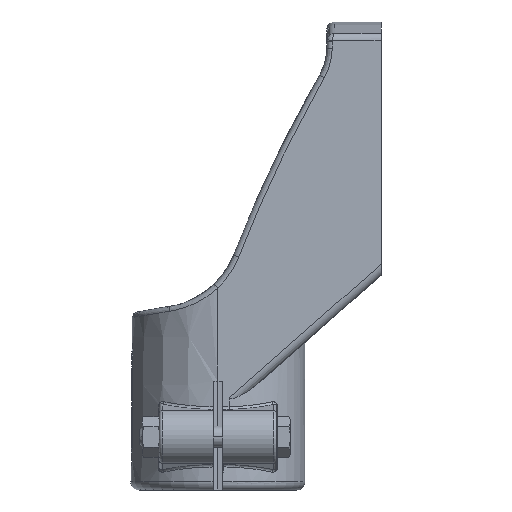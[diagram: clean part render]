
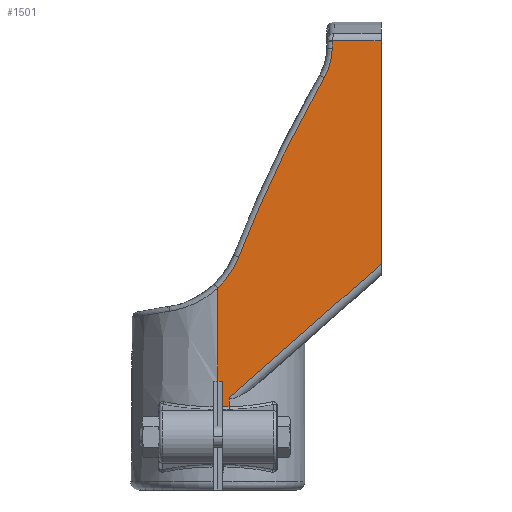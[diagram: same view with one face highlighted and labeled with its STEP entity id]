
A CAD part, left-side view. The second image highlights one B-rep face of the part: STEP entity #1501.
In plain terms, the highlighted planar face has unit normal (-1, 0, 0.009).
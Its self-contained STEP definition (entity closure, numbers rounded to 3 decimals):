
#338=CARTESIAN_POINT('Vertex',(-30.583,18.,162.386)) ;
#341=CARTESIAN_POINT('Line Origine',(-31.25,18.,85.998)) ;
#345=CARTESIAN_POINT('Vertex',(-30.563,18.,164.717)) ;
#1089=CARTESIAN_POINT('Control Point',(-30.56,17.955,165.029)) ;
#1090=CARTESIAN_POINT('Control Point',(-30.56,17.973,164.968)) ;
#1091=CARTESIAN_POINT('Control Point',(-30.561,17.986,164.906)) ;
#1092=CARTESIAN_POINT('Control Point',(-30.561,17.995,164.843)) ;
#1093=CARTESIAN_POINT('Control Point',(-30.562,18.,164.78)) ;
#1094=CARTESIAN_POINT('Control Point',(-30.563,18.,164.717)) ;
#1095=CARTESIAN_POINT('Vertex',(-30.56,17.955,165.029)) ;
#1368=CARTESIAN_POINT('Vertex',(-30.678,20.9,151.468)) ;
#1372=CARTESIAN_POINT('Control Point',(-30.678,20.9,151.468)) ;
#1373=CARTESIAN_POINT('Control Point',(-30.676,20.741,151.746)) ;
#1374=CARTESIAN_POINT('Control Point',(-30.673,20.588,152.027)) ;
#1375=CARTESIAN_POINT('Control Point',(-30.671,20.439,152.31)) ;
#1376=CARTESIAN_POINT('Control Point',(-30.653,19.434,154.315)) ;
#1377=CARTESIAN_POINT('Control Point',(-30.635,18.687,156.442)) ;
#1378=CARTESIAN_POINT('Control Point',(-30.618,18.249,158.329)) ;
#1379=CARTESIAN_POINT('Control Point',(-30.601,18.015,160.292)) ;
#1380=CARTESIAN_POINT('Control Point',(-30.584,18.,162.257)) ;
#1381=CARTESIAN_POINT('Control Point',(-30.584,18.,162.3)) ;
#1382=CARTESIAN_POINT('Control Point',(-30.583,18.,162.343)) ;
#1383=CARTESIAN_POINT('Control Point',(-30.583,18.,162.386)) ;
#1392=CARTESIAN_POINT('Axis2P3D Location',(-32.,0.,0.)) ;
#1398=CARTESIAN_POINT('Control Point',(-31.733,55.877,30.56)) ;
#1399=CARTESIAN_POINT('Control Point',(-31.733,55.877,30.556)) ;
#1400=CARTESIAN_POINT('Control Point',(-31.733,55.878,30.553)) ;
#1401=CARTESIAN_POINT('Control Point',(-31.733,55.878,30.549)) ;
#1402=CARTESIAN_POINT('Vertex',(-31.733,55.878,30.549)) ;
#1404=CARTESIAN_POINT('Vertex',(-31.733,55.877,30.56)) ;
#1408=CARTESIAN_POINT('Control Point',(-31.733,55.877,30.56)) ;
#1409=CARTESIAN_POINT('Control Point',(-31.73,55.85,30.968)) ;
#1410=CARTESIAN_POINT('Control Point',(-31.726,55.823,31.377)) ;
#1411=CARTESIAN_POINT('Control Point',(-31.723,55.796,31.786)) ;
#1412=CARTESIAN_POINT('Vertex',(-31.723,55.796,31.786)) ;
#1416=CARTESIAN_POINT('Control Point',(-31.723,55.796,31.786)) ;
#1417=CARTESIAN_POINT('Control Point',(-31.716,55.747,32.518)) ;
#1418=CARTESIAN_POINT('Control Point',(-31.71,55.7,33.25)) ;
#1419=CARTESIAN_POINT('Control Point',(-31.703,55.654,33.982)) ;
#1420=CARTESIAN_POINT('Vertex',(-31.703,55.654,33.982)) ;
#1424=CARTESIAN_POINT('Control Point',(-31.703,55.654,33.982)) ;
#1425=CARTESIAN_POINT('Control Point',(-31.275,0.,83.025)) ;
#1426=CARTESIAN_POINT('Vertex',(-31.275,0.,83.025)) ;
#1429=CARTESIAN_POINT('Line Origine',(-31.249,0.,86.)) ;
#1433=CARTESIAN_POINT('Vertex',(-30.56,0.,165.029)) ;
#1436=CARTESIAN_POINT('Line Origine',(-30.56,20.8,165.029)) ;
#1442=CARTESIAN_POINT('Control Point',(-30.678,20.9,151.468)) ;
#1443=CARTESIAN_POINT('Control Point',(-30.863,32.995,130.309)) ;
#1444=CARTESIAN_POINT('Control Point',(-31.055,43.534,108.261)) ;
#1445=CARTESIAN_POINT('Control Point',(-31.253,52.404,85.561)) ;
#1446=CARTESIAN_POINT('Vertex',(-31.253,52.404,85.561)) ;
#1450=CARTESIAN_POINT('Control Point',(-31.353,60.,74.169)) ;
#1451=CARTESIAN_POINT('Control Point',(-31.332,57.516,76.563)) ;
#1452=CARTESIAN_POINT('Control Point',(-31.308,55.377,79.315)) ;
#1453=CARTESIAN_POINT('Control Point',(-31.281,53.659,82.348)) ;
#1454=CARTESIAN_POINT('Control Point',(-31.253,52.404,85.561)) ;
#1455=CARTESIAN_POINT('Vertex',(-31.353,60.,74.169)) ;
#1458=CARTESIAN_POINT('Line Origine',(-31.249,60.,86.)) ;
#1462=CARTESIAN_POINT('Vertex',(-31.651,60.,40.)) ;
#1465=CARTESIAN_POINT('Line Origine',(-31.651,20.8,40.)) ;
#1469=CARTESIAN_POINT('Vertex',(-31.651,58.25,40.)) ;
#1472=CARTESIAN_POINT('Line Origine',(-31.249,58.25,86.)) ;
#1476=CARTESIAN_POINT('Vertex',(-31.733,58.25,30.549)) ;
#1479=CARTESIAN_POINT('Line Origine',(-31.733,20.8,30.549)) ;
#342=DIRECTION('Vector Direction',(0.009,0.,1.)) ;
#1393=DIRECTION('Axis2P3D Direction',(-1.,0.,0.009)) ;
#1394=DIRECTION('Axis2P3D XDirection',(0.,1.,0.)) ;
#1430=DIRECTION('Vector Direction',(-0.009,0.,-1.)) ;
#1437=DIRECTION('Vector Direction',(0.,1.,0.)) ;
#1459=DIRECTION('Vector Direction',(-0.009,0.,-1.)) ;
#1466=DIRECTION('Vector Direction',(0.,1.,0.)) ;
#1473=DIRECTION('Vector Direction',(-0.009,0.,-1.)) ;
#1480=DIRECTION('Vector Direction',(0.,1.,0.)) ;
#1395=AXIS2_PLACEMENT_3D('Plane Axis2P3D',#1392,#1393,#1394) ;
#1485=ORIENTED_EDGE('',*,*,#1406,.T.) ;
#1486=ORIENTED_EDGE('',*,*,#1414,.T.) ;
#1487=ORIENTED_EDGE('',*,*,#1422,.F.) ;
#1488=ORIENTED_EDGE('',*,*,#1428,.F.) ;
#1489=ORIENTED_EDGE('',*,*,#1435,.F.) ;
#1490=ORIENTED_EDGE('',*,*,#1440,.F.) ;
#1491=ORIENTED_EDGE('',*,*,#1097,.F.) ;
#1492=ORIENTED_EDGE('',*,*,#347,.F.) ;
#1493=ORIENTED_EDGE('',*,*,#1384,.F.) ;
#1494=ORIENTED_EDGE('',*,*,#1448,.F.) ;
#1495=ORIENTED_EDGE('',*,*,#1457,.F.) ;
#1496=ORIENTED_EDGE('',*,*,#1464,.F.) ;
#1497=ORIENTED_EDGE('',*,*,#1471,.T.) ;
#1498=ORIENTED_EDGE('',*,*,#1478,.F.) ;
#1499=ORIENTED_EDGE('',*,*,#1483,.F.) ;
#343=VECTOR('Line Direction',#342,1.) ;
#1431=VECTOR('Line Direction',#1430,1.) ;
#1438=VECTOR('Line Direction',#1437,1.) ;
#1460=VECTOR('Line Direction',#1459,1.) ;
#1467=VECTOR('Line Direction',#1466,1.) ;
#1474=VECTOR('Line Direction',#1473,1.) ;
#1481=VECTOR('Line Direction',#1480,1.) ;
#1501=ADVANCED_FACE('PartBody',(#1500),#1396,.T.) ;
#1088=B_SPLINE_CURVE_WITH_KNOTS('',5,(#1089,#1090,#1091,#1092,#1093,#1094),.UNSPECIFIED.,.F.,.U.,(6,6),(11.527,12.49),.UNSPECIFIED.) ;
#1371=B_SPLINE_CURVE_WITH_KNOTS('',5,(#1372,#1373,#1374,#1375,#1376,#1377,#1378,#1379,#1380,#1381,#1382,#1383),.UNSPECIFIED.,.F.,.U.,(6,3,3,6),(85.689,87.852,100.838,101.13),.UNSPECIFIED.) ;
#1397=B_SPLINE_CURVE_WITH_KNOTS('',3,(#1398,#1399,#1400,#1401),.UNSPECIFIED.,.F.,.U.,(4,4),(0.,0.014),.UNSPECIFIED.) ;
#1407=B_SPLINE_CURVE_WITH_KNOTS('',3,(#1408,#1409,#1410,#1411),.UNSPECIFIED.,.F.,.U.,(4,4),(44.404,46.143),.UNSPECIFIED.) ;
#1415=B_SPLINE_CURVE_WITH_KNOTS('',3,(#1416,#1417,#1418,#1419),.UNSPECIFIED.,.F.,.U.,(4,4),(0.,3.111),.UNSPECIFIED.) ;
#1423=B_SPLINE_CURVE_WITH_KNOTS('',1,(#1424,#1425),.UNSPECIFIED.,.F.,.U.,(2,2),(-34.193,39.987),.UNSPECIFIED.) ;
#1441=B_SPLINE_CURVE_WITH_KNOTS('',3,(#1442,#1443,#1444,#1445),.UNSPECIFIED.,.F.,.U.,(4,4),(85.172,188.784),.UNSPECIFIED.) ;
#1449=B_SPLINE_CURVE_WITH_KNOTS('',4,(#1450,#1451,#1452,#1453,#1454),.UNSPECIFIED.,.F.,.U.,(5,5),(34.974,53.889),.UNSPECIFIED.) ;
#347=EDGE_CURVE('',#339,#346,#344,.T.) ;
#1097=EDGE_CURVE('',#346,#1096,#1088,.F.) ;
#1384=EDGE_CURVE('',#1369,#339,#1371,.T.) ;
#1406=EDGE_CURVE('',#1403,#1405,#1397,.F.) ;
#1414=EDGE_CURVE('',#1405,#1413,#1407,.T.) ;
#1422=EDGE_CURVE('',#1421,#1413,#1415,.F.) ;
#1428=EDGE_CURVE('',#1427,#1421,#1423,.F.) ;
#1435=EDGE_CURVE('',#1434,#1427,#1432,.T.) ;
#1440=EDGE_CURVE('',#1096,#1434,#1439,.F.) ;
#1448=EDGE_CURVE('',#1447,#1369,#1441,.F.) ;
#1457=EDGE_CURVE('',#1456,#1447,#1449,.T.) ;
#1464=EDGE_CURVE('',#1463,#1456,#1461,.F.) ;
#1471=EDGE_CURVE('',#1463,#1470,#1468,.F.) ;
#1478=EDGE_CURVE('',#1477,#1470,#1475,.F.) ;
#1483=EDGE_CURVE('',#1403,#1477,#1482,.T.) ;
#1484=EDGE_LOOP('',(#1485,#1486,#1487,#1488,#1489,#1490,#1491,#1492,#1493,#1494,#1495,#1496,#1497,#1498,#1499)) ;
#1500=FACE_OUTER_BOUND('',#1484,.T.) ;
#344=LINE('Line',#341,#343) ;
#1432=LINE('Line',#1429,#1431) ;
#1439=LINE('Line',#1436,#1438) ;
#1461=LINE('Line',#1458,#1460) ;
#1468=LINE('Line',#1465,#1467) ;
#1475=LINE('Line',#1472,#1474) ;
#1482=LINE('Line',#1479,#1481) ;
#1396=PLANE('',#1395) ;
#339=VERTEX_POINT('',#338) ;
#346=VERTEX_POINT('',#345) ;
#1096=VERTEX_POINT('',#1095) ;
#1369=VERTEX_POINT('',#1368) ;
#1403=VERTEX_POINT('',#1402) ;
#1405=VERTEX_POINT('',#1404) ;
#1413=VERTEX_POINT('',#1412) ;
#1421=VERTEX_POINT('',#1420) ;
#1427=VERTEX_POINT('',#1426) ;
#1434=VERTEX_POINT('',#1433) ;
#1447=VERTEX_POINT('',#1446) ;
#1456=VERTEX_POINT('',#1455) ;
#1463=VERTEX_POINT('',#1462) ;
#1470=VERTEX_POINT('',#1469) ;
#1477=VERTEX_POINT('',#1476) ;
